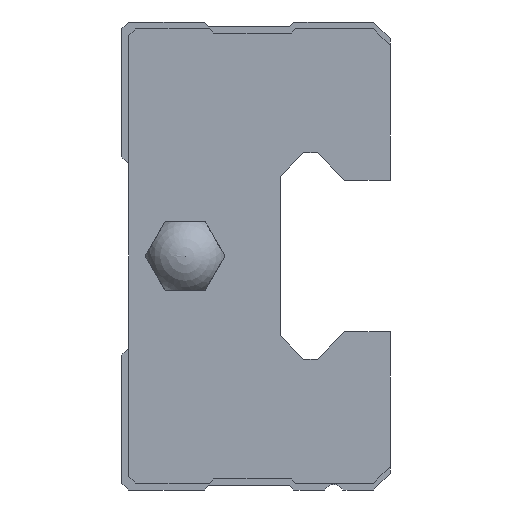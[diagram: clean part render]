
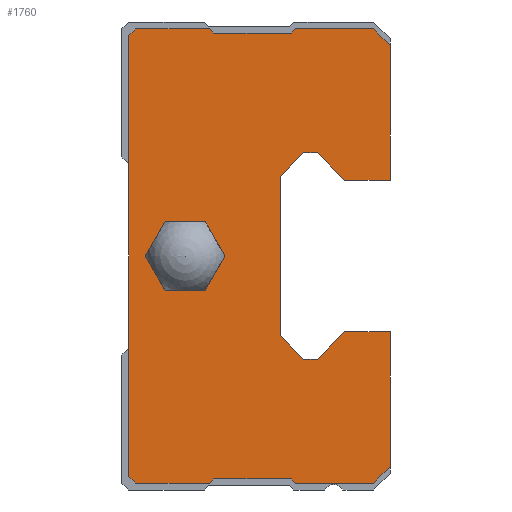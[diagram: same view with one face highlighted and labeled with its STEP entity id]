
A CAD part, left-side view. The second image highlights one B-rep face of the part: STEP entity #1760.
In plain terms, the highlighted planar face has unit normal (-1, 0, 0).
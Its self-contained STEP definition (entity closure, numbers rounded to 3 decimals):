
#437=ORIENTED_EDGE('',*,*,#717,.F.);
#438=ORIENTED_EDGE('',*,*,#744,.F.);
#439=ORIENTED_EDGE('',*,*,#742,.F.);
#440=ORIENTED_EDGE('',*,*,#740,.F.);
#441=ORIENTED_EDGE('',*,*,#738,.F.);
#442=ORIENTED_EDGE('',*,*,#736,.F.);
#443=ORIENTED_EDGE('',*,*,#734,.F.);
#444=ORIENTED_EDGE('',*,*,#732,.F.);
#445=ORIENTED_EDGE('',*,*,#730,.F.);
#446=ORIENTED_EDGE('',*,*,#644,.F.);
#447=ORIENTED_EDGE('',*,*,#641,.F.);
#448=ORIENTED_EDGE('',*,*,#638,.F.);
#449=ORIENTED_EDGE('',*,*,#635,.F.);
#450=ORIENTED_EDGE('',*,*,#632,.F.);
#451=ORIENTED_EDGE('',*,*,#629,.F.);
#452=ORIENTED_EDGE('',*,*,#626,.F.);
#453=ORIENTED_EDGE('',*,*,#623,.F.);
#454=ORIENTED_EDGE('',*,*,#620,.F.);
#455=ORIENTED_EDGE('',*,*,#617,.F.);
#456=ORIENTED_EDGE('',*,*,#613,.F.);
#457=ORIENTED_EDGE('',*,*,#729,.F.);
#458=ORIENTED_EDGE('',*,*,#727,.F.);
#459=ORIENTED_EDGE('',*,*,#725,.F.);
#460=ORIENTED_EDGE('',*,*,#723,.F.);
#461=ORIENTED_EDGE('',*,*,#721,.F.);
#462=ORIENTED_EDGE('',*,*,#719,.F.);
#463=ORIENTED_EDGE('',*,*,#745,.T.);
#464=ORIENTED_EDGE('',*,*,#746,.T.);
#465=ORIENTED_EDGE('',*,*,#747,.T.);
#466=ORIENTED_EDGE('',*,*,#748,.T.);
#467=ORIENTED_EDGE('',*,*,#749,.T.);
#468=ORIENTED_EDGE('',*,*,#750,.T.);
#613=EDGE_CURVE('',#849,#850,#1018,.T.);
#617=EDGE_CURVE('',#850,#853,#1022,.T.);
#620=EDGE_CURVE('',#853,#855,#1025,.T.);
#623=EDGE_CURVE('',#855,#857,#1028,.T.);
#626=EDGE_CURVE('',#857,#859,#1031,.T.);
#629=EDGE_CURVE('',#859,#861,#1034,.T.);
#632=EDGE_CURVE('',#861,#863,#1037,.T.);
#635=EDGE_CURVE('',#863,#865,#1040,.T.);
#638=EDGE_CURVE('',#865,#867,#1043,.T.);
#641=EDGE_CURVE('',#867,#869,#1046,.T.);
#644=EDGE_CURVE('',#869,#871,#1049,.T.);
#717=EDGE_CURVE('',#907,#908,#1115,.T.);
#719=EDGE_CURVE('',#908,#909,#1117,.T.);
#721=EDGE_CURVE('',#909,#910,#1119,.T.);
#723=EDGE_CURVE('',#910,#911,#1121,.T.);
#725=EDGE_CURVE('',#911,#912,#1123,.T.);
#727=EDGE_CURVE('',#912,#913,#1125,.T.);
#729=EDGE_CURVE('',#913,#849,#1127,.T.);
#730=EDGE_CURVE('',#871,#914,#1128,.T.);
#732=EDGE_CURVE('',#914,#915,#1130,.T.);
#734=EDGE_CURVE('',#915,#916,#1132,.T.);
#736=EDGE_CURVE('',#916,#917,#1134,.T.);
#738=EDGE_CURVE('',#917,#918,#1136,.T.);
#740=EDGE_CURVE('',#918,#919,#1138,.T.);
#742=EDGE_CURVE('',#919,#920,#1140,.T.);
#744=EDGE_CURVE('',#920,#907,#1142,.T.);
#745=EDGE_CURVE('',#921,#922,#1143,.T.);
#746=EDGE_CURVE('',#922,#923,#1144,.T.);
#747=EDGE_CURVE('',#923,#924,#1145,.T.);
#748=EDGE_CURVE('',#924,#925,#1146,.T.);
#749=EDGE_CURVE('',#925,#926,#1147,.T.);
#750=EDGE_CURVE('',#926,#921,#1148,.T.);
#849=VERTEX_POINT('',#2512);
#850=VERTEX_POINT('',#2514);
#853=VERTEX_POINT('',#2522);
#855=VERTEX_POINT('',#2528);
#857=VERTEX_POINT('',#2534);
#859=VERTEX_POINT('',#2540);
#861=VERTEX_POINT('',#2546);
#863=VERTEX_POINT('',#2552);
#865=VERTEX_POINT('',#2558);
#867=VERTEX_POINT('',#2564);
#869=VERTEX_POINT('',#2570);
#871=VERTEX_POINT('',#2576);
#907=VERTEX_POINT('',#2724);
#908=VERTEX_POINT('',#2726);
#909=VERTEX_POINT('',#2730);
#910=VERTEX_POINT('',#2734);
#911=VERTEX_POINT('',#2738);
#912=VERTEX_POINT('',#2742);
#913=VERTEX_POINT('',#2746);
#914=VERTEX_POINT('',#2752);
#915=VERTEX_POINT('',#2756);
#916=VERTEX_POINT('',#2760);
#917=VERTEX_POINT('',#2764);
#918=VERTEX_POINT('',#2768);
#919=VERTEX_POINT('',#2772);
#920=VERTEX_POINT('',#2776);
#921=VERTEX_POINT('',#2782);
#922=VERTEX_POINT('',#2783);
#923=VERTEX_POINT('',#2785);
#924=VERTEX_POINT('',#2787);
#925=VERTEX_POINT('',#2789);
#926=VERTEX_POINT('',#2791);
#1018=LINE('',#2513,#1246);
#1022=LINE('',#2521,#1250);
#1025=LINE('',#2527,#1253);
#1028=LINE('',#2533,#1256);
#1031=LINE('',#2539,#1259);
#1034=LINE('',#2545,#1262);
#1037=LINE('',#2551,#1265);
#1040=LINE('',#2557,#1268);
#1043=LINE('',#2563,#1271);
#1046=LINE('',#2569,#1274);
#1049=LINE('',#2575,#1277);
#1115=LINE('',#2725,#1343);
#1117=LINE('',#2729,#1345);
#1119=LINE('',#2733,#1347);
#1121=LINE('',#2737,#1349);
#1123=LINE('',#2741,#1351);
#1125=LINE('',#2745,#1353);
#1127=LINE('',#2749,#1355);
#1128=LINE('',#2751,#1356);
#1130=LINE('',#2755,#1358);
#1132=LINE('',#2759,#1360);
#1134=LINE('',#2763,#1362);
#1136=LINE('',#2767,#1364);
#1138=LINE('',#2771,#1366);
#1140=LINE('',#2775,#1368);
#1142=LINE('',#2779,#1370);
#1143=LINE('',#2781,#1371);
#1144=LINE('',#2784,#1372);
#1145=LINE('',#2786,#1373);
#1146=LINE('',#2788,#1374);
#1147=LINE('',#2790,#1375);
#1148=LINE('',#2792,#1376);
#1246=VECTOR('',#2008,1000.);
#1250=VECTOR('',#2014,1000.);
#1253=VECTOR('',#2019,1000.);
#1256=VECTOR('',#2024,1000.);
#1259=VECTOR('',#2029,1000.);
#1262=VECTOR('',#2034,1000.);
#1265=VECTOR('',#2039,1000.);
#1268=VECTOR('',#2044,1000.);
#1271=VECTOR('',#2049,1000.);
#1274=VECTOR('',#2054,1000.);
#1277=VECTOR('',#2059,1000.);
#1343=VECTOR('',#2219,1000.);
#1345=VECTOR('',#2223,1000.);
#1347=VECTOR('',#2227,1000.);
#1349=VECTOR('',#2231,1000.);
#1351=VECTOR('',#2235,1000.);
#1353=VECTOR('',#2239,1000.);
#1355=VECTOR('',#2243,1000.);
#1356=VECTOR('',#2246,1000.);
#1358=VECTOR('',#2250,1000.);
#1360=VECTOR('',#2254,1000.);
#1362=VECTOR('',#2258,1000.);
#1364=VECTOR('',#2262,1000.);
#1366=VECTOR('',#2266,1000.);
#1368=VECTOR('',#2270,1000.);
#1370=VECTOR('',#2274,1000.);
#1371=VECTOR('',#2277,1000.);
#1372=VECTOR('',#2278,1000.);
#1373=VECTOR('',#2279,1000.);
#1374=VECTOR('',#2280,1000.);
#1375=VECTOR('',#2281,1000.);
#1376=VECTOR('',#2282,1000.);
#1479=EDGE_LOOP('',(#437,#438,#439,#440,#441,#442,#443,#444,#445,#446,#447,
#448,#449,#450,#451,#452,#453,#454,#455,#456,#457,#458,#459,#460,#461,#462));
#1480=EDGE_LOOP('',(#463,#464,#465,#466,#467,#468));
#1581=FACE_BOUND('',#1479,.T.);
#1582=FACE_BOUND('',#1480,.T.);
#1670=PLANE('',#1875);
#1760=ADVANCED_FACE('',(#1581,#1582),#1670,.F.);
#1875=AXIS2_PLACEMENT_3D('',#2780,#2275,#2276);
#2008=DIRECTION('',(0.,0.,-1.));
#2014=DIRECTION('',(0.,1.,0.));
#2019=DIRECTION('',(0.,0.707,0.707));
#2024=DIRECTION('',(0.,1.,0.));
#2029=DIRECTION('',(0.,0.711,-0.703));
#2034=DIRECTION('',(0.,0.,-1.));
#2039=DIRECTION('',(0.,-0.711,-0.703));
#2044=DIRECTION('',(0.,-1.,0.));
#2049=DIRECTION('',(0.,-0.707,0.707));
#2054=DIRECTION('',(0.,-1.,0.));
#2059=DIRECTION('',(0.,0.,-1.));
#2219=DIRECTION('',(0.,-0.707,0.707));
#2223=DIRECTION('',(0.,-1.,0.));
#2227=DIRECTION('',(0.,-0.707,-0.707));
#2231=DIRECTION('',(0.,-1.,0.));
#2235=DIRECTION('',(0.,-0.707,0.707));
#2239=DIRECTION('',(0.,-1.,0.));
#2243=DIRECTION('',(0.,-0.707,-0.707));
#2246=DIRECTION('',(0.,0.707,-0.707));
#2250=DIRECTION('',(0.,1.,0.));
#2254=DIRECTION('',(0.,0.707,0.707));
#2258=DIRECTION('',(0.,1.,0.));
#2262=DIRECTION('',(0.,0.707,-0.707));
#2266=DIRECTION('',(0.,1.,0.));
#2270=DIRECTION('',(0.,0.707,0.707));
#2274=DIRECTION('',(0.,0.,1.));
#2275=DIRECTION('',(1.,0.,0.));
#2276=DIRECTION('',(0.,0.,-1.));
#2277=DIRECTION('',(0.,1.,0.));
#2278=DIRECTION('',(0.,0.5,0.866));
#2279=DIRECTION('',(0.,-0.5,0.866));
#2280=DIRECTION('',(0.,-1.,0.));
#2281=DIRECTION('',(0.,-0.5,-0.866));
#2282=DIRECTION('',(0.,0.5,-0.866));
#2512=CARTESIAN_POINT('',(-20.25,-19.5,15.3));
#2513=CARTESIAN_POINT('',(-20.25,-19.5,15.3));
#2514=CARTESIAN_POINT('',(-20.25,-19.5,5.5));
#2521=CARTESIAN_POINT('',(-20.25,-19.5,5.5));
#2522=CARTESIAN_POINT('',(-20.25,-16.2,5.5));
#2527=CARTESIAN_POINT('',(-20.25,-16.2,5.5));
#2528=CARTESIAN_POINT('',(-20.25,-14.2,7.5));
#2533=CARTESIAN_POINT('',(-20.25,-14.2,7.5));
#2534=CARTESIAN_POINT('',(-20.25,-13.22,7.5));
#2539=CARTESIAN_POINT('',(-20.25,-13.22,7.5));
#2540=CARTESIAN_POINT('',(-20.25,-11.5,5.8));
#2545=CARTESIAN_POINT('',(-20.25,-11.5,5.8));
#2546=CARTESIAN_POINT('',(-20.25,-11.5,-5.8));
#2551=CARTESIAN_POINT('',(-20.25,-11.5,-5.8));
#2552=CARTESIAN_POINT('',(-20.25,-13.22,-7.5));
#2557=CARTESIAN_POINT('',(-20.25,-13.22,-7.5));
#2558=CARTESIAN_POINT('',(-20.25,-14.2,-7.5));
#2563=CARTESIAN_POINT('',(-20.25,-14.2,-7.5));
#2564=CARTESIAN_POINT('',(-20.25,-16.2,-5.5));
#2569=CARTESIAN_POINT('',(-20.25,-16.2,-5.5));
#2570=CARTESIAN_POINT('',(-20.25,-19.5,-5.5));
#2575=CARTESIAN_POINT('',(-20.25,-19.5,-5.5));
#2576=CARTESIAN_POINT('',(-20.25,-19.5,-15.3));
#2724=CARTESIAN_POINT('',(-20.25,-0.5,16.));
#2725=CARTESIAN_POINT('',(-20.25,-0.5,16.));
#2726=CARTESIAN_POINT('',(-20.25,-1.,16.5));
#2729=CARTESIAN_POINT('',(-20.25,-1.,16.5));
#2730=CARTESIAN_POINT('',(-20.25,-6.375,16.5));
#2733=CARTESIAN_POINT('',(-20.25,-6.375,16.5));
#2734=CARTESIAN_POINT('',(-20.25,-6.675,16.2));
#2737=CARTESIAN_POINT('',(-20.25,-6.675,16.2));
#2738=CARTESIAN_POINT('',(-20.25,-12.325,16.2));
#2741=CARTESIAN_POINT('',(-20.25,-12.325,16.2));
#2742=CARTESIAN_POINT('',(-20.25,-12.625,16.5));
#2745=CARTESIAN_POINT('',(-20.25,-12.625,16.5));
#2746=CARTESIAN_POINT('',(-20.25,-18.3,16.5));
#2749=CARTESIAN_POINT('',(-20.25,-18.3,16.5));
#2751=CARTESIAN_POINT('',(-20.25,-19.5,-15.3));
#2752=CARTESIAN_POINT('',(-20.25,-18.3,-16.5));
#2755=CARTESIAN_POINT('',(-20.25,-18.3,-16.5));
#2756=CARTESIAN_POINT('',(-20.25,-12.625,-16.5));
#2759=CARTESIAN_POINT('',(-20.25,-12.625,-16.5));
#2760=CARTESIAN_POINT('',(-20.25,-12.325,-16.2));
#2763=CARTESIAN_POINT('',(-20.25,-12.325,-16.2));
#2764=CARTESIAN_POINT('',(-20.25,-6.675,-16.2));
#2767=CARTESIAN_POINT('',(-20.25,-6.675,-16.2));
#2768=CARTESIAN_POINT('',(-20.25,-6.375,-16.5));
#2771=CARTESIAN_POINT('',(-20.25,-6.375,-16.5));
#2772=CARTESIAN_POINT('',(-20.25,-1.,-16.5));
#2775=CARTESIAN_POINT('',(-20.25,-1.,-16.5));
#2776=CARTESIAN_POINT('',(-20.25,-0.5,-16.));
#2779=CARTESIAN_POINT('',(-20.25,-0.5,-16.));
#2780=CARTESIAN_POINT('',(-20.25,0.,0.));
#2781=CARTESIAN_POINT('',(-20.25,-6.043,-2.5));
#2782=CARTESIAN_POINT('',(-20.25,-6.043,-2.5));
#2783=CARTESIAN_POINT('',(-20.25,-3.157,-2.5));
#2784=CARTESIAN_POINT('',(-20.25,-3.157,-2.5));
#2785=CARTESIAN_POINT('',(-20.25,-1.713,0.));
#2786=CARTESIAN_POINT('',(-20.25,-1.713,0.));
#2787=CARTESIAN_POINT('',(-20.25,-3.157,2.5));
#2788=CARTESIAN_POINT('',(-20.25,-3.157,2.5));
#2789=CARTESIAN_POINT('',(-20.25,-6.043,2.5));
#2790=CARTESIAN_POINT('',(-20.25,-6.043,2.5));
#2791=CARTESIAN_POINT('',(-20.25,-7.487,0.));
#2792=CARTESIAN_POINT('',(-20.25,-7.487,0.));
